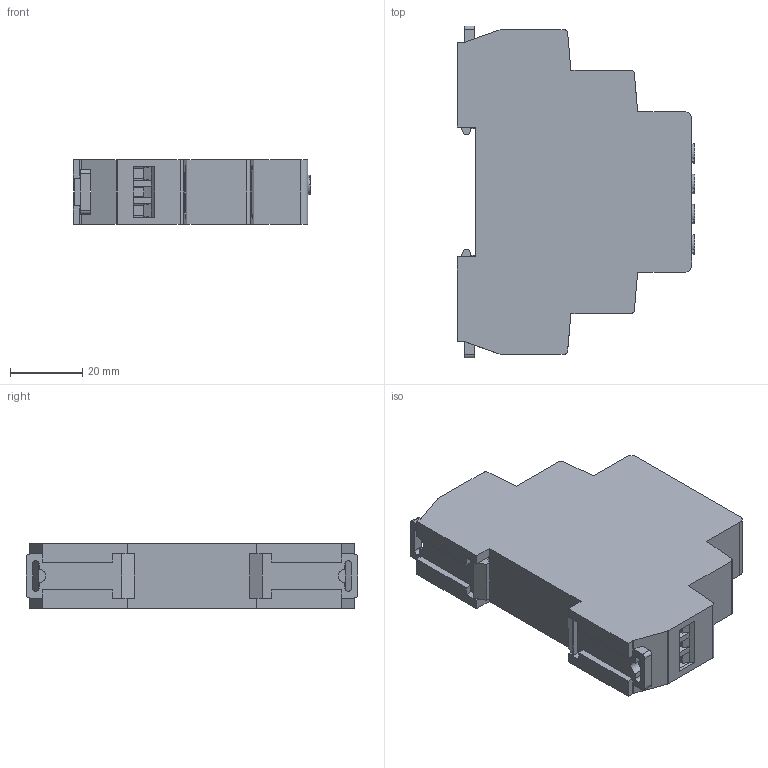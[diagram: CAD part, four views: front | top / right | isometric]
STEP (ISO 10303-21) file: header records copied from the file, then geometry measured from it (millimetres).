
FILE_DESCRIPTION (( 'STEP AP203' ), '1' );
FILE_NAME ('Ðåëå íàïðÿæåíèÿ RV-3ZC.STEP', '2021-11-25T20:41:47', ( '' ), ( '' ), 'SwSTEP 2.0', 'SolidWorks 2017', '' );
FILE_SCHEMA (( 'CONFIG_CONTROL_DESIGN' ));
Length unit declared in the file: millimetre
Products named in the file (1): Ðåëå íàïðÿæåíèÿ RV-3ZC
Bounding box: 65.8 x 92 x 18 mm (x, y, z)
Volume: 79562.7 mm3; surface area: 18598.9 mm2
Topology: 15 solids, 15 shells, 519 faces, 1353 edges, 884 vertices
Faces by surface type: plane 363, cylinder 128, torus 24, sphere 4
Entity records: 15842 total; most frequent: CARTESIAN_POINT 2775, ORIENTED_EDGE 2690, DIRECTION 2677, EDGE_CURVE 1345, LINE 1033, VECTOR 1033, VERTEX_POINT 880, AXIS2_PLACEMENT_3D 822
